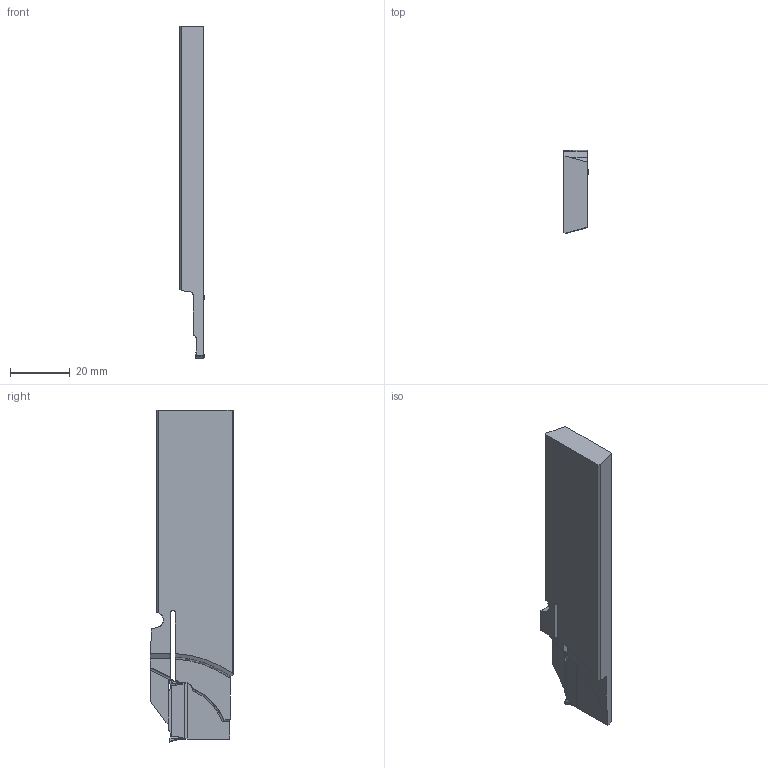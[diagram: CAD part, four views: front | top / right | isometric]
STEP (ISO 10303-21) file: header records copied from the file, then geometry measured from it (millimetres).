
FILE_DESCRIPTION(('CATIA V5 STEP'),'2;1');
FILE_NAME('I:\isr\design\admin8\users\khoury_e\2392101.stp','2013-02-21T12:02:57+00:00',('none'),('none'),'CATIA Version 5 Release 21 SP 3 (IN-10)','CATIA V5 STEP AP214','none');
FILE_SCHEMA(('AUTOMOTIVE_DESIGN { 1 0 10303 214 1 1 1 1 }'));
Length unit declared in the file: millimetre
Products named in the file (1): 61140977_0 Assembly DGFHL 26B-3TR-D36R
Bounding box: 8.29 x 27.79 x 111 mm (x, y, z)
Volume: 17606 mm3; surface area: 7602.1 mm2
Topology: 2 solids, 2 shells, 160 faces, 444 edges, 285 vertices
Faces by surface type: plane 67, cylinder 52, bspline 32, torus 7, cone 2
Entity records: 7730 total; most frequent: CARTESIAN_POINT 4125, ORIENTED_EDGE 866, DIRECTION 508, EDGE_CURVE 433, VERTEX_POINT 277, VECTOR 217, LINE 217, AXIS2_PLACEMENT_3D 172
